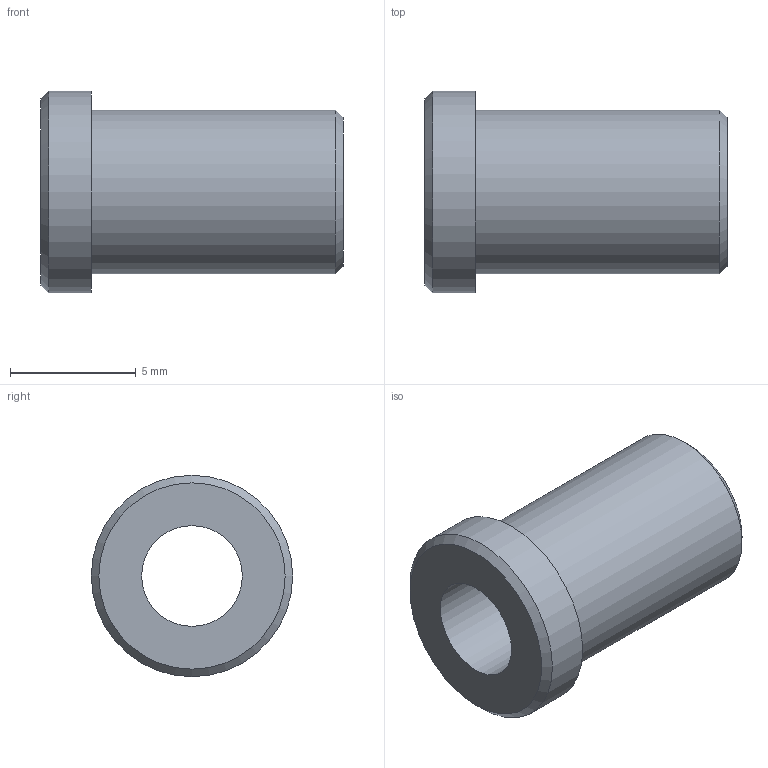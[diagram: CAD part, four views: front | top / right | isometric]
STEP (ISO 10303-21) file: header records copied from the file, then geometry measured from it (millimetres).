
FILE_DESCRIPTION(/* description */ (''),/* implementation_level */ '2;1');
FILE_NAME(/* name */ '',/* time_stamp */ '2025-07-02T11:17:43+03:00',/* author */ ('user17'),/* organization */ (''),/* preprocessor_version */ 'ST-DEVELOPER v19.2',/* originating_system */ 'Autodesk Inventor 2023',/* authorisation */ '');
FILE_SCHEMA (('AUTOMOTIVE_DESIGN { 1 0 10303 214 3 1 1 }'));
Length unit declared in the file: millimetre
Products named in the file (1): 713331.078-(Втулка)
Bounding box: 12 x 8 x 8 mm (x, y, z)
Volume: 279.6 mm3; surface area: 472.4 mm2
Topology: 1 solids, 1 shells, 8 faces, 14 edges, 9 vertices
Faces by surface type: cylinder 3, plane 3, cone 2
Full cylindrical faces by diameter (mm): 4 x1, 6.5 x1, 8 x1
Entity records: 246 total; most frequent: DIRECTION 41, CARTESIAN_POINT 32, ORIENTED_EDGE 28, AXIS2_PLACEMENT_3D 18, EDGE_CURVE 14, EDGE_LOOP 11, CIRCLE 9, VERTEX_POINT 9
